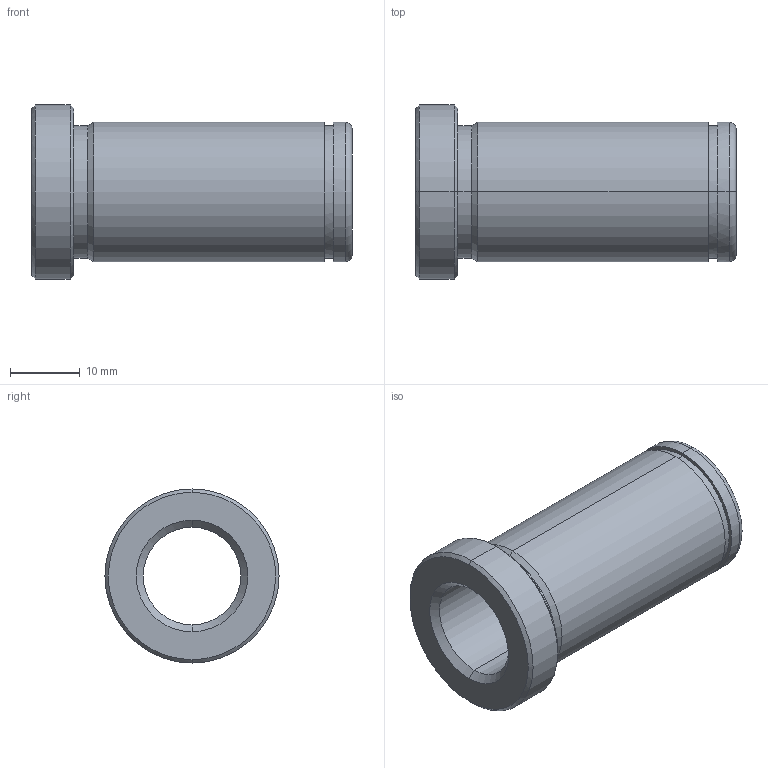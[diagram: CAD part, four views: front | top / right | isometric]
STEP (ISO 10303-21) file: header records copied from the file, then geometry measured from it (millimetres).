
FILE_DESCRIPTION(('CATIA V5 STEP Exchange'),'2;1');
FILE_NAME('C:\Users\Utente\Desktop\IO LAVORO\3D X SITO CF\X SITO\PLASTICA\553\553-14X46.stp','2021-05-21T18:24:53+00:00',('none'),('none'),'CATIA Version 5 Release 20 GA (IN-10)','CATIA V5 STEP AP203','none');
FILE_SCHEMA(('CONFIG_CONTROL_DESIGN'));
Length unit declared in the file: millimetre
Products named in the file (1): 553-14x46
Bounding box: 46 x 25 x 25 mm (x, y, z)
Volume: 8238.1 mm3; surface area: 5644.1 mm2
Topology: 1 solids, 1 shells, 29 faces, 92 edges, 68 vertices
Faces by surface type: cylinder 12, cone 8, plane 5, torus 4
Entity records: 1222 total; most frequent: CARTESIAN_POINT 368, ORIENTED_EDGE 184, DIRECTION 136, EDGE_CURVE 92, AXIS2_PLACEMENT_3D 88, VERTEX_POINT 68, CIRCLE 58, EDGE_LOOP 34
